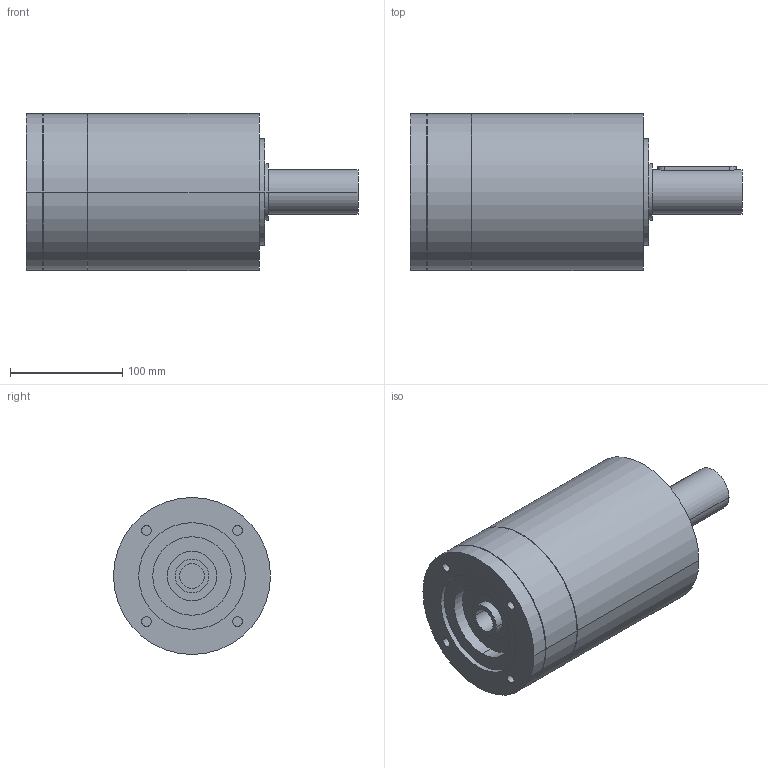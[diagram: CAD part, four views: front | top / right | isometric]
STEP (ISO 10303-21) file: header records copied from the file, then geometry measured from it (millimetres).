
FILE_DESCRIPTION(('CoCreate Modeling STEP Export'),'2;1');
FILE_NAME('GPR150_ig-9-12-16-20-28-35_40_B14_22_P03.stp','2014-08-26T15:30:34',(''),(''),'CoCreate Modeling STEP processor for AP214 (Solid Model)','CoCreate Modeling 16.00C 25-Feb-2009 (C) Parametric Technology GmbH','');
FILE_SCHEMA(('AUTOMOTIVE_DESIGN { 1 0 10303 214 1 1 1 1 }'));
Length unit declared in the file: millimetre
Products named in the file (2): GPR150_ig-9-12-16-20-28-35_40_B14_22_P03
Assembly tree (1 placements, depth 2):
  GPR150_ig-9-12-16-20-28-35_40_B14_22_P03
    GPR150_ig-9-12-16-20-28-35_40_B14_22_P03
Bounding box: 296 x 140 x 140 mm (x, y, z)
Volume: 3238627.5 mm3; surface area: 151177.9 mm2
Topology: 1 solids, 1 shells, 83 faces, 203 edges, 143 vertices
Faces by surface type: cylinder 50, plane 27, cone 6
Entity records: 2095 total; most frequent: ORIENTED_EDGE 402, CARTESIAN_POINT 399, DIRECTION 274, EDGE_CURVE 201, VERTEX_POINT 143, AXIS2_PLACEMENT_3D 106, EDGE_LOOP 106, FACE_OUTER_BOUND 83
